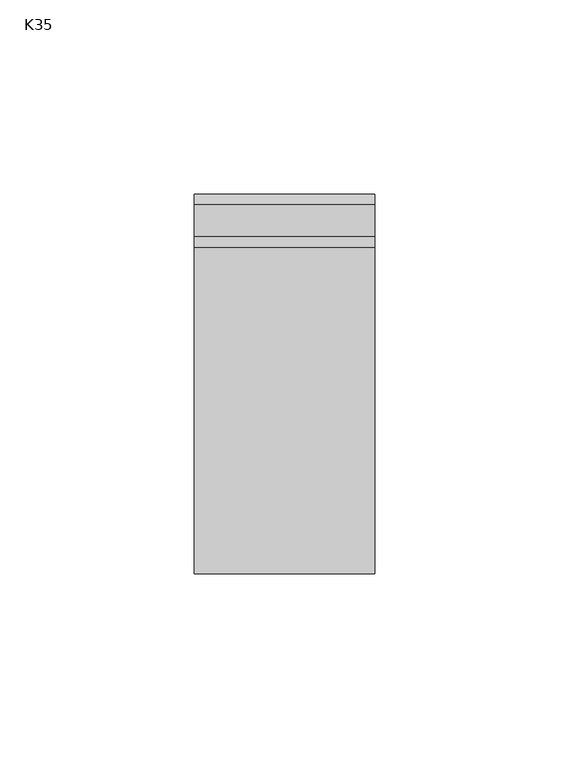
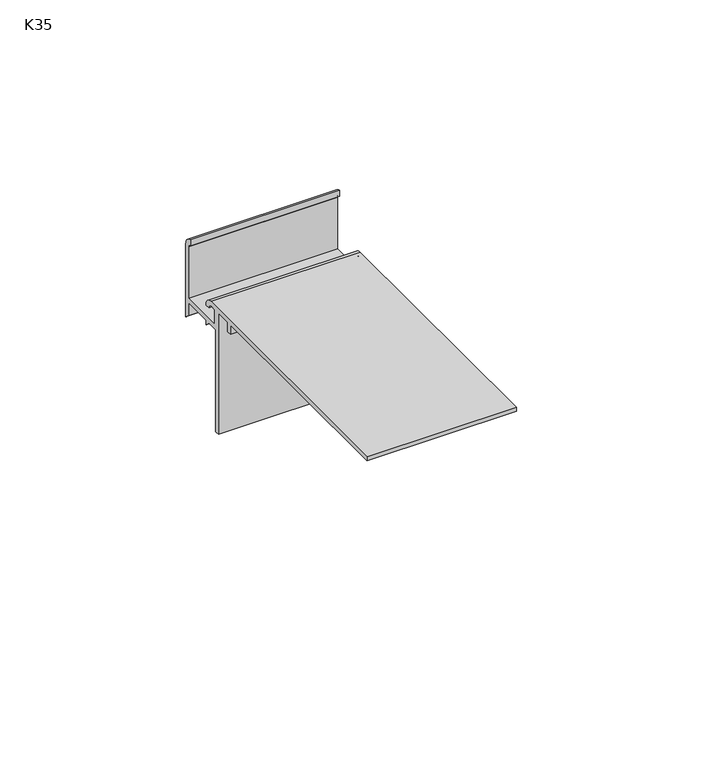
"""IFC4 building model written with IfcOpenShell, lengths in millimetres: proxy geometry, K35 Profil okapowy prosty z rynną : K35."""

from ifc_helpers import new_model, si_unit, point, frame, frame_2d, origin, place, context, project, spatial, polyline, circle_curve, trimmed, segment, composite_curve, outline, extrude, source, transform, mapped, element, save


def k35_29e522b6(model_context):
    return source(origin(), model_context, "Body", "SweptSolid", [
        extrude(outline(composite_curve([segment(trimmed(circle_curve(frame_2d((-0.4087938, -2.8812097)), 2.9102158), [point((0.0010677, 0.0))], [point((2.5010677, -2.8358001))], False, "CARTESIAN"), True, "CONTINUOUS"), segment(polyline([(2.5010677, -2.8358001), (2.5010677, -26.8), (1.0010677, -25.549015), (1.0010677, -21.1829113), (-8.5231229, -21.1829113), (-8.5231229, -22.7095005), (-10.049712, -21.1829113), (-13.5989323, -21.1829113), (-13.5989323, -54.7), (-15.0989323, -54.7), (-15.0989323, -14.9), (-20.0989323, -14.9), (-20.0989323, -17.8969711), (-21.5989323, -17.8969711), (-21.5989323, -14.9), (-95.0989323, -14.9), (-95.0989323, -13.5), (-11.0612599, -13.5)]), True, "CONTINUOUS"), segment(trimmed(circle_curve(frame_2d((-11.0612599, -16.1266316)), 2.6266316), [point((-11.0612599, -13.5))], [point((-8.4405044, -16.3022282))], False, "CARTESIAN"), True, "CONTINUOUS"), segment(polyline([(-8.4405044, -16.3022282), (-9.9435317, -16.3022282)]), True, "CONTINUOUS"), segment(trimmed(circle_curve(frame_2d((-11.3457599, -16.3022282)), 1.4022282), [point((-9.9435317, -16.3022282))], [point((-11.3457599, -14.9))], True, "CARTESIAN"), True, "CONTINUOUS"), segment(polyline([(-11.3457599, -14.9), (-13.1366439, -14.9), (-13.1366439, -19.6829113), (1.0010677, -19.6829113), (1.0010677, -2.8358001)]), True, "CONTINUOUS"), segment(trimmed(circle_curve(frame_2d((0.0010677, -2.8358001)), 1.0), [point((1.0010677, -2.8358001))], [point((0.0010677, -1.8358001))], True, "CARTESIAN"), True, "CONTINUOUS"), segment(polyline([(0.0010677, -1.8358001), (0.0010677, 0.0)]), True, "CONTINUOUS")], self_intersect=False)), frame((0.0, 0.0, 0.0), z_axis=(1.0, 0.0, 0.0), x_axis=(0.0, 1.0, 0.0)), (0.0, 0.0, 1.0), 46.3810425),
    ])


if __name__ == "__main__":
    model = new_model("IFC4")
    model_context = context("Model", 3, world=origin())
    ifc_project = project(units=[si_unit("LENGTHUNIT", "METRE", prefix="MILLI")], contexts=[model_context])
    site = spatial("IfcSite", under=ifc_project)
    building = spatial("IfcBuilding", under=site)
    placement = place(None, origin())
    k35_shape = k35_29e522b6(model_context)
    element("IfcBuildingElementProxy", 1, Name="K35 Profil okapowy prosty z rynną : K35", ObjectType="K35 Profil okapowy prosty z rynną : K35", at=placement, inside=building, context=model_context, shape_type="MappedRepresentation", body=[
        mapped(k35_shape, transform((0.0, 0.0, 0.0), x_axis=(1.0, 0.0, 0.0), y_axis=(0.0, 1.0, 0.0), z_axis=(0.0, 0.0, 1.0))),
    ])
    save(model, "model.ifc")
